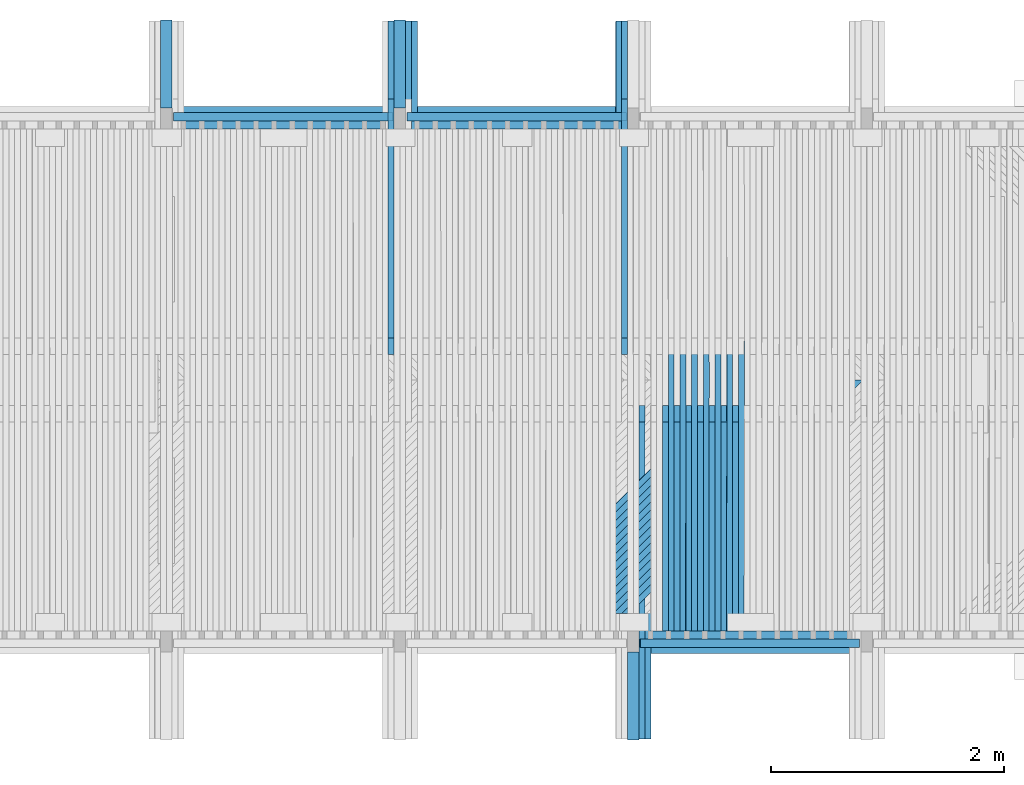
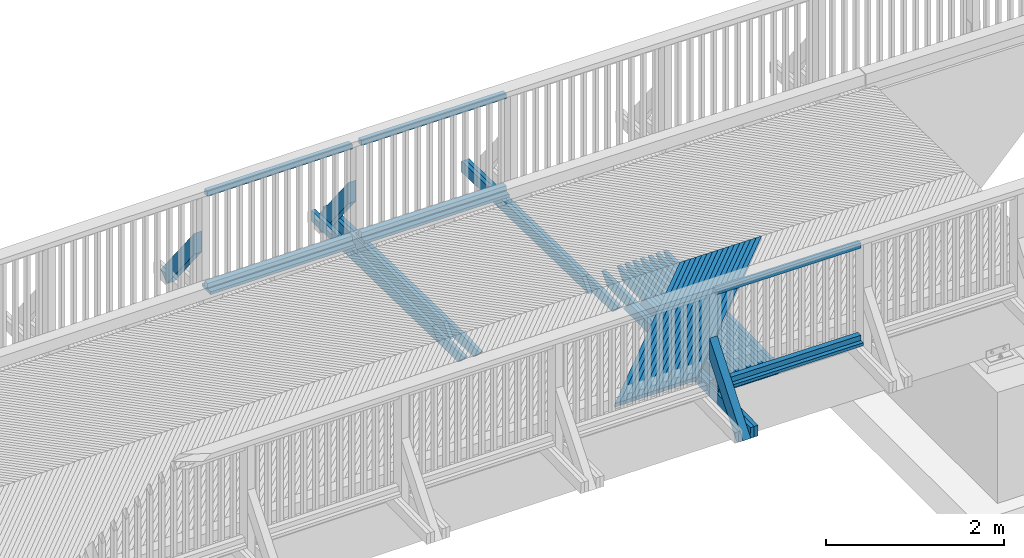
# One storey, part 39 of 53: 47 beams, 3 members.
"""IFC2X3 building model written with IfcOpenShell, lengths in millimetres."""

from ifc_helpers import new_model, si_unit, frame, origin_with_axes, place, context, subcontext, project, spatial, faceted_brep, material, type_object, element, save


model = new_model("IFC2X3")

# Units and contexts
model_context = context("Model", 3, precision=1e-05, world=origin_with_axes())
body_context = subcontext(model_context, "Body", "Model", "MODEL_VIEW")
ifc_project = project(units=[si_unit("LENGTHUNIT", "METRE", prefix="MILLI"), si_unit("AREAUNIT", "SQUARE_METRE"), si_unit("VOLUMEUNIT", "CUBIC_METRE"), si_unit("MASSUNIT", "GRAM", prefix="KILO"), si_unit("TIMEUNIT", "SECOND"), si_unit("PLANEANGLEUNIT", "RADIAN"), si_unit("SOLIDANGLEUNIT", "STERADIAN"), si_unit("THERMODYNAMICTEMPERATUREUNIT", "DEGREE_CELSIUS"), si_unit("LUMINOUSINTENSITYUNIT", "LUMEN")], contexts=[model_context])

# Site, building, storey
site_placement = place(None, origin_with_axes())
site = spatial("IfcSite", under=ifc_project, at=site_placement, Name="Undefined", CompositionType="ELEMENT")
building_placement = place(site_placement, origin_with_axes())
building = spatial("IfcBuilding", under=site, at=building_placement, Name="Undefined", CompositionType="ELEMENT")
storey_placement = place(building_placement, origin_with_axes())
storey = spatial("IfcBuildingStorey", under=building, at=storey_placement, Name="Undefined", CompositionType="ELEMENT", Elevation=0.0)

# Members
ifc_material = material(Name="TIMBER/Timber_Undefined")
member_type = type_object("IfcMemberType", Name="180*100", PredefinedType="NOTDEFINED")
for number, where, z_axis, x_axis in (
    (1, (10000.0064146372, 45378.7683991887, 2950.63480506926), (0.0, 0.783926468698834, 0.620853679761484), (-4.01699999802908e-06, -0.620853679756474, 0.78392646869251)),
    (2, (8000.00641464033, 45378.7683991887, 2953.94911855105), (0.0, 0.783926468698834, 0.620853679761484), (-4.01699999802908e-06, -0.620853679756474, 0.78392646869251)),
):
    element("IfcMember", number, at=place(storey_placement, frame(where, z_axis=z_axis, x_axis=x_axis)), inside=storey, type_object=member_type, material=ifc_material, Name="KAIDEPYLVÄS", ObjectType="180*100", context=body_context, shape_type="Brep", body=[
        faceted_brep([(0.0, 50.0, -89.9999999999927), (0.0, 50.0, 90.0), (1214.99440716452, 50.0, 90.0000000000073), (987.715792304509, 50.0, -89.9999999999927), (0.0, -49.9999999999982, 90.0000000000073), (1214.99480886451, -50.0, 90.0000000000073), (-3.63797880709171e-12, -49.9999999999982, -90.0), (987.716194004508, -49.9999999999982, -89.9999999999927)], [[[0, 1, 2, 3]], [[1, 4, 5, 2]], [[4, 6, 7, 5]], [[6, 0, 3, 7]], [[5, 7, 3, 2]], [[6, 4, 1, 0]]]),
    ])
member_placement = place(storey_placement, frame((12000.0064146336, 39351.2316008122, 2940.69175529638), z_axis=(0.0, -0.783926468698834, 0.620853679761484), x_axis=(-4.01699999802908e-06, 0.620853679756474, 0.783926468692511)))
element("IfcMember", 3, at=member_placement, inside=storey, type_object=member_type, material=ifc_material, Name="KAIDEPYLVÄS", ObjectType="180*100", context=body_context, shape_type="Brep", body=[
    faceted_brep([(0.0, 50.0, -89.9999999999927), (0.0, 50.0, 90.0), (1214.99480886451, 50.0000000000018, 90.0000000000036), (987.716194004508, 50.0, -89.9999999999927), (0.0, -49.9999999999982, 90.0000000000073), (1214.99440716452, -49.9999999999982, 90.0000000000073), (-3.63797880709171e-12, -49.9999999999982, -90.0), (987.715792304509, -49.9999999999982, -89.9999999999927)], [[[0, 1, 2, 3]], [[1, 4, 5, 2]], [[4, 6, 7, 5]], [[6, 0, 3, 7]], [[5, 7, 3, 2]], [[6, 4, 1, 0]]]),
])

# Beams
beam_type_1 = type_object("IfcBeamType", Name="70*70", PredefinedType="NOTDEFINED")
beam_1_placement = place(storey_placement, frame((10059.8168055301, 44619.9900689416, 3259.925078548), z_axis=(0.0, 1.0, 0.0), x_axis=(0.999986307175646, 0.0, -0.00523311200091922)))
element("IfcBeam", 4, at=beam_1_placement, inside=storey, type_object=beam_type_1, material=ifc_material, Name="BEAM", ObjectType="70*70", context=body_context, shape_type="Brep", body=[
    faceted_brep([(-3.63797880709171e-12, 35.0000000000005, -35.0), (-3.63797880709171e-12, 35.0000000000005, 35.0), (1880.02601672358, 34.9999999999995, 35.0), (1880.02601672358, 34.9999999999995, -35.0), (-3.63797880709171e-12, -34.9999999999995, 35.0), (1880.02601672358, -35.0000000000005, 35.0), (-3.63797880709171e-12, -34.9999999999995, -35.0), (1880.02601672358, -35.0000000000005, -35.0)], [[[0, 1, 2, 3]], [[1, 4, 5, 2]], [[4, 6, 7, 5]], [[6, 0, 3, 7]], [[5, 7, 3, 2]], [[6, 4, 1, 0]]]),
])
beam_2_placement = place(storey_placement, frame((8059.93901393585, 44619.9899853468, 3263.2738534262), z_axis=(0.0, 1.0, 0.0), x_axis=(0.999998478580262, 0.0, -0.00174437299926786)))
element("IfcBeam", 5, at=beam_2_placement, inside=storey, type_object=beam_type_1, material=ifc_material, Name="BEAM", ObjectType="70*70", context=body_context, shape_type="Brep", body=[
    faceted_brep([(-3.63797880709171e-12, 35.0000000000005, -35.0), (-3.63797880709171e-12, 35.0000000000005, 35.0), (1880.00289069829, 35.0, 35.0), (1880.00289069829, 35.0, -35.0), (-3.63797880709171e-12, -34.9999999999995, 35.0), (1880.00289069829, -35.0000000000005, 35.0), (-3.63797880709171e-12, -34.9999999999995, -35.0), (1880.00289069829, -35.0000000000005, -35.0)], [[[0, 1, 2, 3]], [[1, 4, 5, 2]], [[4, 6, 7, 5]], [[6, 0, 3, 7]], [[5, 7, 3, 2]], [[6, 4, 1, 0]]]),
])
beam_3_placement = place(storey_placement, frame((10059.8168055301, 44619.9900689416, 4524.925078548), z_axis=(0.0, 1.0, 0.0), x_axis=(0.999986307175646, 0.0, -0.00523311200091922)))
element("IfcBeam", 6, at=beam_3_placement, inside=storey, type_object=beam_type_1, material=ifc_material, Name="BEAM", ObjectType="70*70", context=body_context, shape_type="Brep", body=[
    faceted_brep([(-3.63797880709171e-12, 35.0000000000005, -35.0), (-3.63797880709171e-12, 35.0000000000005, 35.0), (1880.02601672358, 34.9999999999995, 35.0), (1880.02601672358, 34.9999999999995, -35.0), (-3.63797880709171e-12, -34.9999999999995, 35.0), (1880.02601672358, -35.0000000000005, 35.0), (-3.63797880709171e-12, -34.9999999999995, -35.0), (1880.02601672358, -35.0000000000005, -35.0)], [[[0, 1, 2, 3]], [[1, 4, 5, 2]], [[4, 6, 7, 5]], [[6, 0, 3, 7]], [[5, 7, 3, 2]], [[6, 4, 1, 0]]]),
])
beam_4_placement = place(storey_placement, frame((8059.93901393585, 44619.9899853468, 4528.27385342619), z_axis=(0.0, 1.0, 0.0), x_axis=(0.999998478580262, 0.0, -0.00174437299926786)))
element("IfcBeam", 7, at=beam_4_placement, inside=storey, type_object=beam_type_1, material=ifc_material, Name="BEAM", ObjectType="70*70", context=body_context, shape_type="Brep", body=[
    faceted_brep([(-3.63797880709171e-12, 35.0000000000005, -35.0), (-3.63797880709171e-12, 35.0000000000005, 35.0), (1880.00289069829, 35.0, 35.0), (1880.00289069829, 35.0, -35.0), (-3.63797880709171e-12, -34.9999999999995, 35.0), (1880.00289069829, -35.0000000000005, 35.0), (-3.63797880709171e-12, -34.9999999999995, -35.0), (1880.00289069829, -35.0000000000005, -35.0)], [[[0, 1, 2, 3]], [[1, 4, 5, 2]], [[4, 6, 7, 5]], [[6, 0, 3, 7]], [[5, 7, 3, 2]], [[6, 4, 1, 0]]]),
])
for number, where, z_axis, x_axis, name in (
    (8, (12059.6944082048, 40110.0100009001, 3249.94799357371), (0.0, -1.0, 0.0), (0.999961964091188, 0.0, -0.00872183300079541), "BEAM"),
    (9, (12059.6944082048, 40110.0100009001, 4514.94799357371), (0.0, -1.0, 0.0), (0.999961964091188, 0.0, -0.00872183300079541), "BEAM"),
):
    element("IfcBeam", number, at=place(storey_placement, frame(where, z_axis=z_axis, x_axis=x_axis)), inside=storey, type_object=beam_type_1, material=ifc_material, Name=name, ObjectType="70*70", context=body_context, shape_type="Brep", body=[
        faceted_brep([(-3.63797880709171e-12, 35.0000000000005, -35.0), (-3.63797880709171e-12, 35.0000000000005, 35.0), (1880.07227097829, 34.9999999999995, 35.0), (1880.07227097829, 34.9999999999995, -35.0), (-3.63797880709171e-12, -34.9999999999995, 35.0), (1880.07227097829, -35.0000000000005, 35.0), (-3.63797880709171e-12, -34.9999999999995, -35.0), (1880.07227097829, -35.0000000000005, -35.0)], [[[0, 1, 2, 3]], [[1, 4, 5, 2]], [[4, 6, 7, 5]], [[6, 0, 3, 7]], [[5, 7, 3, 2]], [[6, 4, 1, 0]]]),
    ])
beam_type_2 = type_object("IfcBeamType", Name="195*40", PredefinedType="NOTDEFINED")
for number, where, z_axis, x_axis, name in (
    (10, (10058.6727720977, 44612.4900689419, 3204.93956033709), (0.0, 1.0, 0.0), (0.999986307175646, 0.0, -0.00523311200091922), "BEAM"),
    (11, (8058.98681846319, 44612.4899853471, 3208.28467859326), (0.0, 1.0, 0.0), (0.999998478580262, 0.0, -0.00174437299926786), "BEAM"),
    (12, (12058.3585482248, 40117.5100008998, 3194.96680130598), (0.0, -1.0, 0.0), (0.999961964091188, 0.0, -0.00872183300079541), "BEAM"),
):
    element("IfcBeam", number, at=place(storey_placement, frame(where, z_axis=z_axis, x_axis=x_axis)), inside=storey, type_object=beam_type_2, material=ifc_material, Name=name, ObjectType="195*40", context=body_context, shape_type="Brep", body=[
        faceted_brep([(0.0, 20.0, -97.5), (0.0, 20.0, 97.5), (1880.22135781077, 19.9999999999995, 97.5), (1880.22135781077, 19.9999999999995, -97.5), (3.63797880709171e-12, -20.0, 97.5), (1880.22135781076, -20.0000000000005, 97.5), (3.63797880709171e-12, -20.0, -97.5), (1880.22135781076, -20.0000000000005, -97.5)], [[[0, 1, 2, 3]], [[1, 4, 5, 2]], [[4, 6, 7, 5]], [[6, 0, 3, 7]], [[5, 7, 3, 2]], [[6, 4, 1, 0]]]),
    ])
beam_type_3 = type_object("IfcBeamType", Name="50*50", PredefinedType="NOTDEFINED")
for number, where, z_axis, x_axis, name in (
    (13, (13935.0975862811, 42364.5001003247, 3206.86972998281), (0.706953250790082, -0.706981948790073, -0.019839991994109), (-0.707214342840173, -0.706948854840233, -0.00843741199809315), "BEAM"),
    (14, (13864.3767480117, 42364.5001003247, 3207.56271699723), (0.706955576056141, -0.706981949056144, -0.019756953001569), (-0.707213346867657, -0.706948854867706, -0.00852048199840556), "BEAM"),
    (15, (13793.6558288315, 42364.5001003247, 3208.24739709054), (0.706957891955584, -0.706981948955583, -0.019673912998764), (-0.707212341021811, -0.706948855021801, -0.00860355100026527), "BEAM"),
    (16, (13722.9348297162, 42364.5001003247, 3208.92377025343), (0.706960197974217, -0.706981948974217, -0.0195908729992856), (-0.7072113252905, -0.706948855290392, -0.00868662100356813), "BEAM"),
    (17, (13652.2137516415, 42364.5001003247, 3209.5918364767), (0.70696249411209, -0.706981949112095, -0.0195078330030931), (-0.707210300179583, -0.706948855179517, -0.0087696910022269), "BEAM"),
    (18, (13581.4925955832, 42364.5001003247, 3210.25159575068), (0.706964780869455, -0.706981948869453, -0.0194247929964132), (-0.707209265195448, -0.706948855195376, -0.00885276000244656), "BEAM"),
    (19, (13510.771362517, 42364.5001003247, 3210.90304806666), (0.706967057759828, -0.706981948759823, -0.019341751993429), (-0.70720822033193, -0.706948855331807, -0.00893582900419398), "BEAM"),
    (20, (13440.0500534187, 42364.5001003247, 3211.54619341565), (0.706969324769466, -0.706981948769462, -0.0192587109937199), (-0.707207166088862, -0.706948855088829, -0.00901889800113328), "BEAM"),
    (21, (13369.3286692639, 42364.5001003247, 3212.18103178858), (0.706971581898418, -0.706981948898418, -0.0191756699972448), (-0.707206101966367, -0.706948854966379, -0.0091019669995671), "BEAM"),
    (22, (13298.6072110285, 42364.5001003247, 3212.80756317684), (0.706973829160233, -0.706981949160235, -0.0190926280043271), (-0.707205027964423, -0.706948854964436, -0.00918503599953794), "BEAM"),
    (23, (13227.8856796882, 42364.5001003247, 3213.42578757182), (0.706976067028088, -0.70698194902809, -0.0190095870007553), (-0.707203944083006, -0.706948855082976, -0.00926810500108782), "BEAM"),
    (24, (13157.1640762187, 42364.5001003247, 3214.03570496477), (0.70697829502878, -0.70698194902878, -0.0189265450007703), (-0.707202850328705, -0.706948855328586, -0.00935117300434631), "BEAM"),
    (25, (13086.4424015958, 42364.5001003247, 3214.63731534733), (0.706980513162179, -0.70698194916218, -0.0188435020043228), (-0.707201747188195, -0.706948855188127, -0.00943424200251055), "BEAM"),
    (26, (13015.7206567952, 42364.5001003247, 3215.23061871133), (0.706982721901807, -0.706981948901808, -0.0187604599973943), (-0.707200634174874, -0.706948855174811, -0.00951731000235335), "BEAM"),
    (27, (12944.9988427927, 42364.5001003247, 3215.81561504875), (0.706984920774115, -0.706981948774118, -0.0186774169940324), (-0.707199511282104, -0.706948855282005, -0.0096003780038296), "BEAM"),
):
    element("IfcBeam", number, at=place(storey_placement, frame(where, z_axis=z_axis, x_axis=x_axis)), inside=storey, type_object=beam_type_3, material=ifc_material, Name=name, ObjectType="50*50", context=body_context, shape_type="Brep", body=[
        faceted_brep([(24.8942457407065, 25.0, -25.0), (-25.0086637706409, 24.9999999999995, 24.9999999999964), (2804.34067830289, 25.0, 25.0000000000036), (2854.34301907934, 24.9999999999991, -25.0000000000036), (-26.4222658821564, -25.0000000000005, 25.0000000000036), (2802.92643296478, -25.0, 25.0), (23.4806436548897, -25.0, -25.0), (2852.92877373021, -25.0000000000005, -25.0000000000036)], [[[0, 1, 2, 3]], [[1, 4, 5, 2]], [[4, 6, 7, 5]], [[6, 0, 3, 7]], [[5, 7, 3, 2]], [[6, 4, 1, 0]]]),
    ])
beam_type_4 = type_object("IfcBeamType", Name="150*50", PredefinedType="NOTDEFINED")
beam_5_placement = place(storey_placement, frame((10125.0217457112, 45437.2106524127, 3070.9202994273), z_axis=(0.00353218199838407, 0.0199960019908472, 0.999793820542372), x_axis=(6.92069999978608e-05, -0.999800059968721, 0.0199958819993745)))
element("IfcBeam", 28, at=beam_5_placement, inside=storey, type_object=beam_type_4, material=ifc_material, Name="BEAM", ObjectType="150*50", context=body_context, shape_type="Brep", body=[
    faceted_brep([(1.28420651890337e-08, -24.9999999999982, -74.9999999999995), (1.28420651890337e-08, 25.0000000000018, -75.0), (3298.90492234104, 25.0, -75.0), (3298.90497884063, -24.9999999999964, -75.0), (-1.28347892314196e-08, -24.9999999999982, 75.0), (-1.28347892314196e-08, 25.0, 75.0), (3074.32497546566, 25.0000000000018, 75.0), (3434.49245887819, 25.0, 60.5875365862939), (3434.49251531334, -24.9999999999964, 60.587536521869), (3074.32503029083, -25.0, 75.0000000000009)], [[[0, 1, 2, 3]], [[0, 4, 5, 1]], [[2, 1, 5, 6, 7]], [[3, 2, 7, 8]], [[4, 0, 3, 8, 9]], [[5, 4, 9, 6]], [[8, 7, 6, 9]]]),
])
beam_6_placement = place(storey_placement, frame((10075.0042720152, 45437.2106678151, 3071.09700537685), z_axis=(0.00336606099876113, 0.0199960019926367, 0.999794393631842), x_axis=(6.61229999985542e-05, -0.999800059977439, 0.0199958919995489)))
element("IfcBeam", 29, at=beam_6_placement, inside=storey, type_object=beam_type_4, material=ifc_material, Name="BEAM", ObjectType="150*50", context=body_context, shape_type="Brep", body=[
    faceted_brep([(1.28420651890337e-08, -24.9999999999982, -74.9999999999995), (-1.28347892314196e-08, -24.9999999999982, 75.0), (-1.28347892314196e-08, 25.0, 75.0), (1.28420651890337e-08, 25.0000000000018, -75.0), (2713.86933800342, 25.0000000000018, 75.0), (2852.32643692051, 24.9999999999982, -75.0000000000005), (2852.32648139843, -25.0000000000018, -75.0000000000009), (2713.86938248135, -25.0000000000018, 74.9999999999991)], [[[0, 1, 2, 3]], [[3, 2, 4, 5]], [[0, 3, 5, 6]], [[1, 0, 6, 7]], [[2, 1, 7, 4]], [[6, 5, 4, 7]]]),
])
beam_7_placement = place(storey_placement, frame((11874.7735217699, 45437.2106832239, 3062.2002056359), z_axis=(0.00635604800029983, 0.0199960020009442, 0.999779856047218), x_axis=(0.000128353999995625, -0.999800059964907, 0.0199955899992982)))
element("IfcBeam", 30, at=beam_7_placement, inside=storey, type_object=beam_type_4, material=ifc_material, Name="BEAM", ObjectType="150*50", context=body_context, shape_type="Brep", body=[
    faceted_brep([(1.28420651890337e-08, -24.9999999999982, -74.9999999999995), (-1.28347892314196e-08, -24.9999999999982, 75.0), (-1.28347892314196e-08, 25.0, 75.0), (1.28420651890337e-08, 25.0000000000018, -75.0), (2713.86939704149, 24.9999999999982, 75.0000000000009), (2852.32649585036, 25.0, -74.9999999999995), (2852.32641872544, -25.0, -74.9999999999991), (2713.86931991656, -25.0, 75.0)], [[[0, 1, 2, 3]], [[3, 2, 4, 5]], [[0, 3, 5, 6]], [[1, 0, 6, 7]], [[2, 1, 7, 4]], [[6, 5, 4, 7]]]),
])
for number, where, z_axis, x_axis, name in (
    (31, (11924.7947374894, 45437.2106678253, 3061.87388867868), (0.00652216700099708, 0.0199960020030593, 0.999778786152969), (0.000130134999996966, -0.999800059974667, 0.0199955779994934), "BEAM"),
    (32, (9924.98506254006, 45437.2106678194, 3071.59377355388), (0.00319994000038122, 0.0199960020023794, 0.999794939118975), (6.36899999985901e-05, -0.99980005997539, 0.0199958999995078), "BEAM"),
):
    element("IfcBeam", number, at=place(storey_placement, frame(where, z_axis=z_axis, x_axis=x_axis)), inside=storey, type_object=beam_type_4, material=ifc_material, Name=name, ObjectType="150*50", context=body_context, shape_type="Brep", body=[
        faceted_brep([(1.28420651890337e-08, -24.9999999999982, -74.9999999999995), (1.28420651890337e-08, 25.0000000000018, -75.0), (3298.90492234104, 25.0, -75.0), (3298.90497884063, -24.9999999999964, -75.0), (-1.28347892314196e-08, -24.9999999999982, 75.0), (-1.28347892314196e-08, 25.0, 75.0), (3074.32503673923, 25.0000000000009, 75.0), (3434.49245887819, 25.0, 60.5875365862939), (3434.49251531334, -24.9999999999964, 60.587536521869), (3074.32503029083, -25.0, 75.0000000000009)], [[[0, 1, 2, 3]], [[0, 4, 5, 1]], [[2, 1, 5, 6, 7]], [[3, 2, 7, 8]], [[4, 0, 3, 8, 9]], [[5, 4, 9, 6]], [[8, 7, 6, 9]]]),
    ])
beam_8_placement = place(storey_placement, frame((12124.8280789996, 39292.7893476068, 3060.53571113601), z_axis=(0.00685440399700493, -0.0199960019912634, 0.999776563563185), x_axis=(0.000135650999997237, 0.999800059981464, 0.0199955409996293)))
element("IfcBeam", 33, at=beam_8_placement, inside=storey, type_object=beam_type_4, material=ifc_material, Name="BEAM", ObjectType="150*50", context=body_context, shape_type="Brep", body=[
    faceted_brep([(1.28420651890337e-08, -24.9999999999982, -74.9999999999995), (-1.28347892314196e-08, -24.9999999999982, 75.0), (-1.28347892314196e-08, 25.0, 75.0), (1.28420651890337e-08, 25.0000000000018, -75.0), (3298.90497884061, 24.9999999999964, -74.9999999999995), (3298.90492234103, -25.0, -74.9999999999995), (3434.49245887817, -25.0, 60.5875365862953), (3074.32503029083, -25.0, 75.0000000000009), (3074.32503673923, 25.0000000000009, 75.0), (3434.49251531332, 24.9999999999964, 60.5875365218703)], [[[0, 1, 2, 3]], [[0, 3, 4, 5]], [[1, 0, 5, 6, 7]], [[2, 1, 7, 8]], [[4, 3, 2, 8, 9]], [[5, 4, 9, 6]], [[8, 7, 6, 9]]]),
])
beam_9_placement = place(storey_placement, frame((12074.8114686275, 39292.78933218, 3060.87862046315), z_axis=(0.00668828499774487, -0.0199960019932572, 0.999777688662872), x_axis=(0.000132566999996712, 0.999800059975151, 0.019995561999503)))
element("IfcBeam", 34, at=beam_9_placement, inside=storey, type_object=beam_type_4, material=ifc_material, Name="BEAM", ObjectType="150*50", context=body_context, shape_type="Brep", body=[
    faceted_brep([(1.28420651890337e-08, -24.9999999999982, -74.9999999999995), (-1.28347892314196e-08, -24.9999999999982, 75.0), (-1.28347892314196e-08, 25.0, 75.0), (1.28420651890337e-08, 25.0000000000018, -75.0), (2713.86938248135, -25.0000000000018, 74.9999999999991), (2713.86933800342, 25.0000000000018, 75.0), (2852.32643692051, 24.9999999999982, -75.0000000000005), (2852.32648139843, -25.0000000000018, -75.0000000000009)], [[[0, 1, 2, 3]], [[2, 1, 4, 5]], [[3, 2, 5, 6]], [[0, 3, 6, 7]], [[1, 0, 7, 4]], [[7, 6, 5, 4]]]),
])
beam_10_placement = place(storey_placement, frame((12874.8994002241, 40216.5046076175, 3073.40458690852), z_axis=(0.00801827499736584, -0.0199960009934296, 0.999767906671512), x_axis=(0.0001603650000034, 0.999800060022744, 0.0199953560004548)))
element("IfcBeam", 35, at=beam_10_placement, inside=storey, type_object=beam_type_4, material=ifc_material, Name="BEAM", ObjectType="150*50", context=body_context, shape_type="Brep", body=[
    faceted_brep([(1.28420651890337e-08, -24.9999999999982, -74.9999999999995), (-1.28347892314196e-08, -24.9999999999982, 75.0), (-1.28347892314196e-08, 25.0, 75.0), (1.28420651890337e-08, 25.0000000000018, -75.0), (1789.96936433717, -25.0000000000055, 74.9999999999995), (1789.96936408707, 24.9999999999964, 75.0000000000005), (1928.42646328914, 24.9999999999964, -74.9999999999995), (1928.42646353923, -25.0000000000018, -75.0)], [[[0, 1, 2, 3]], [[2, 1, 4, 5]], [[3, 2, 5, 6]], [[0, 3, 6, 7]], [[1, 0, 7, 4]], [[6, 5, 4, 7]]]),
])
beam_11_placement = place(storey_placement, frame((12924.9177572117, 40216.5046076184, 3072.99512326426), z_axis=(0.00818439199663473, -0.0199960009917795, 0.999766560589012), x_axis=(0.000163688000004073, 0.999800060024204, 0.019995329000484)))
element("IfcBeam", 36, at=beam_11_placement, inside=storey, type_object=beam_type_4, material=ifc_material, Name="BEAM", ObjectType="150*50", context=body_context, shape_type="Brep", body=[
    faceted_brep([(1.28420651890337e-08, -24.9999999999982, -74.9999999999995), (-1.28347892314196e-08, -24.9999999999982, 75.0), (-1.28347892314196e-08, 25.0, 75.0), (1.28420651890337e-08, 25.0000000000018, -75.0), (2375.00494422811, 25.0000000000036, -75.0), (2375.0049444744, -24.9999999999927, -74.9999999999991), (2510.5924871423, -24.9999999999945, 60.5875430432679), (2150.42514405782, -24.9999999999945, 75.0), (2150.42515052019, 25.0000000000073, 75.0), (2510.59248715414, 25.0000000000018, 60.5875433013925)], [[[0, 1, 2, 3]], [[0, 3, 4, 5]], [[1, 0, 5, 6, 7]], [[2, 1, 7, 8]], [[4, 3, 2, 8, 9]], [[5, 4, 9, 6]], [[6, 9, 8, 7]]]),
])
beam_12_placement = place(storey_placement, frame((12774.8825803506, 40216.5046076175, 3074.20626833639), z_axis=(0.00785215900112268, -0.0199960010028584, 0.99976922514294), x_axis=(0.00015704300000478, 0.999800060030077, 0.0199953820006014)))
element("IfcBeam", 37, at=beam_12_placement, inside=storey, type_object=beam_type_4, material=ifc_material, Name="BEAM", ObjectType="150*50", context=body_context, shape_type="Brep", body=[
    faceted_brep([(1.28420651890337e-08, -24.9999999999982, -74.9999999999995), (-1.28347892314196e-08, -24.9999999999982, 75.0), (-1.28347892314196e-08, 25.0, 75.0), (1.28420651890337e-08, 25.0000000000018, -75.0), (1789.96936433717, -25.0000000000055, 74.9999999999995), (1789.96936408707, 24.9999999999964, 75.0000000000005), (1928.42646328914, 24.9999999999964, -74.9999999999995), (1928.42646353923, -25.0000000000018, -75.0)], [[[0, 1, 2, 3]], [[2, 1, 4, 5]], [[3, 2, 5, 6]], [[0, 3, 6, 7]], [[1, 0, 7, 4]], [[6, 5, 4, 7]]]),
])
beam_13_placement = place(storey_placement, frame((12824.9010046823, 40216.5046076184, 3073.80511551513), z_axis=(0.00801827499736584, -0.0199960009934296, 0.999767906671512), x_axis=(0.0001603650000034, 0.999800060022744, 0.0199953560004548)))
element("IfcBeam", 38, at=beam_13_placement, inside=storey, type_object=beam_type_4, material=ifc_material, Name="BEAM", ObjectType="150*50", context=body_context, shape_type="Brep", body=[
    faceted_brep([(1.28420651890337e-08, -24.9999999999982, -74.9999999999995), (-1.28347892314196e-08, -24.9999999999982, 75.0), (-1.28347892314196e-08, 25.0, 75.0), (1.28420651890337e-08, 25.0000000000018, -75.0), (2375.00494422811, 25.0000000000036, -75.0), (2375.0049444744, -24.9999999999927, -74.9999999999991), (2510.5924871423, -24.9999999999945, 60.5875430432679), (2150.42514405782, -24.9999999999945, 75.0), (2150.42515052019, 25.0000000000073, 75.0), (2510.59248715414, 25.0000000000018, 60.5875433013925)], [[[0, 1, 2, 3]], [[0, 3, 4, 5]], [[1, 0, 5, 6, 7]], [[2, 1, 7, 8]], [[4, 3, 2, 8, 9]], [[5, 4, 9, 6]], [[6, 9, 8, 7]]]),
])
beam_14_placement = place(storey_placement, frame((12674.8656286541, 40216.5046076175, 3074.99133142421), z_axis=(0.00768604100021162, -0.0199960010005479, 0.999770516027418), x_axis=(0.000153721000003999, 0.999800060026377, 0.0199954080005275)))
element("IfcBeam", 39, at=beam_14_placement, inside=storey, type_object=beam_type_4, material=ifc_material, Name="BEAM", ObjectType="150*50", context=body_context, shape_type="Brep", body=[
    faceted_brep([(1.28420651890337e-08, -24.9999999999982, -74.9999999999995), (-1.28347892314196e-08, -24.9999999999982, 75.0), (-1.28347892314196e-08, 25.0, 75.0), (1.28420651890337e-08, 25.0000000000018, -75.0), (1789.96936433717, -25.0000000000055, 74.9999999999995), (1789.96936408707, 24.9999999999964, 75.0000000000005), (1928.42646328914, 24.9999999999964, -74.9999999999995), (1928.42646353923, -25.0000000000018, -75.0)], [[[0, 1, 2, 3]], [[2, 1, 4, 5]], [[3, 2, 5, 6]], [[0, 3, 6, 7]], [[1, 0, 7, 4]], [[6, 5, 4, 7]]]),
])
beam_15_placement = place(storey_placement, frame((12724.884118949, 40216.5046076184, 3074.5984894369), z_axis=(0.00785215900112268, -0.0199960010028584, 0.99976922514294), x_axis=(0.00015704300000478, 0.999800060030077, 0.0199953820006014)))
element("IfcBeam", 40, at=beam_15_placement, inside=storey, type_object=beam_type_4, material=ifc_material, Name="BEAM", ObjectType="150*50", context=body_context, shape_type="Brep", body=[
    faceted_brep([(1.28420651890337e-08, -24.9999999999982, -74.9999999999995), (-1.28347892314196e-08, -24.9999999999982, 75.0), (-1.28347892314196e-08, 25.0, 75.0), (1.28420651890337e-08, 25.0000000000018, -75.0), (2375.00494422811, 25.0000000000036, -75.0), (2375.0049444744, -24.9999999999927, -74.9999999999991), (2510.5924871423, -24.9999999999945, 60.5875430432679), (2150.42514405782, -24.9999999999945, 75.0), (2150.42515052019, 25.0000000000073, 75.0), (2510.59248715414, 25.0000000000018, 60.5875433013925)], [[[0, 1, 2, 3]], [[0, 3, 4, 5]], [[1, 0, 5, 6, 7]], [[2, 1, 7, 8]], [[4, 3, 2, 8, 9]], [[5, 4, 9, 6]], [[6, 9, 8, 7]]]),
])
beam_16_placement = place(storey_placement, frame((12574.8485478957, 40216.5046076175, 3075.75977614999), z_axis=(0.00751992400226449, -0.0199960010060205, 0.99977177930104), x_axis=(0.000150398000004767, 0.999800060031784, 0.0199954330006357)))
element("IfcBeam", 41, at=beam_16_placement, inside=storey, type_object=beam_type_4, material=ifc_material, Name="BEAM", ObjectType="150*50", context=body_context, shape_type="Brep", body=[
    faceted_brep([(1.28420651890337e-08, -24.9999999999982, -74.9999999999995), (-1.28347892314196e-08, -24.9999999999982, 75.0), (-1.28347892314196e-08, 25.0, 75.0), (1.28420651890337e-08, 25.0000000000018, -75.0), (1789.96936433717, -25.0000000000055, 74.9999999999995), (1789.96936408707, 24.9999999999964, 75.0000000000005), (1928.42646328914, 24.9999999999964, -74.9999999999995), (1928.42646353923, -25.0000000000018, -75.0)], [[[0, 1, 2, 3]], [[2, 1, 4, 5]], [[3, 2, 5, 6]], [[0, 3, 6, 7]], [[1, 0, 7, 4]], [[6, 5, 4, 7]]]),
])
beam_17_placement = place(storey_placement, frame((12624.8671027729, 40216.5046076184, 3075.37524500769), z_axis=(0.00768604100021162, -0.0199960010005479, 0.999770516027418), x_axis=(0.000153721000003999, 0.999800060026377, 0.0199954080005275)))
element("IfcBeam", 42, at=beam_17_placement, inside=storey, type_object=beam_type_4, material=ifc_material, Name="BEAM", ObjectType="150*50", context=body_context, shape_type="Brep", body=[
    faceted_brep([(1.28420651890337e-08, -24.9999999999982, -74.9999999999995), (-1.28347892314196e-08, -24.9999999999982, 75.0), (-1.28347892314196e-08, 25.0, 75.0), (1.28420651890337e-08, 25.0000000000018, -75.0), (2375.00494422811, 25.0000000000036, -75.0), (2375.0049444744, -24.9999999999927, -74.9999999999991), (2510.5924871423, -24.9999999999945, 60.5875430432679), (2150.42514405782, -24.9999999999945, 75.0), (2150.42515052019, 25.0000000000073, 75.0), (2510.59248715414, 25.0000000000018, 60.5875433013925)], [[[0, 1, 2, 3]], [[0, 3, 4, 5]], [[1, 0, 5, 6, 7]], [[2, 1, 7, 8]], [[4, 3, 2, 8, 9]], [[5, 4, 9, 6]], [[6, 9, 8, 7]]]),
])
beam_18_placement = place(storey_placement, frame((12474.8313408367, 40216.5046076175, 3076.51160249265), z_axis=(0.00735380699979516, -0.0199960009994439, 0.999773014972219), x_axis=(0.000147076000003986, 0.999800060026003, 0.0199954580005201)))
element("IfcBeam", 43, at=beam_18_placement, inside=storey, type_object=beam_type_4, material=ifc_material, Name="BEAM", ObjectType="150*50", context=body_context, shape_type="Brep", body=[
    faceted_brep([(1.28420651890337e-08, -24.9999999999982, -74.9999999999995), (-1.28347892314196e-08, -24.9999999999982, 75.0), (-1.28347892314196e-08, 25.0, 75.0), (1.28420651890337e-08, 25.0000000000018, -75.0), (1789.96936433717, -25.0000000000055, 74.9999999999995), (1789.96936408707, 24.9999999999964, 75.0000000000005), (1928.42646328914, 24.9999999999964, -74.9999999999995), (1928.42646353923, -25.0000000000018, -75.0)], [[[0, 1, 2, 3]], [[2, 1, 4, 5]], [[3, 2, 5, 6]], [[0, 3, 6, 7]], [[1, 0, 7, 4]], [[6, 5, 4, 7]]]),
])
beam_19_placement = place(storey_placement, frame((12524.8499589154, 40216.5046076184, 3076.13538220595), z_axis=(0.00751992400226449, -0.0199960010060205, 0.99977177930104), x_axis=(0.000150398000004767, 0.999800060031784, 0.0199954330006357)))
element("IfcBeam", 44, at=beam_19_placement, inside=storey, type_object=beam_type_4, material=ifc_material, Name="BEAM", ObjectType="150*50", context=body_context, shape_type="Brep", body=[
    faceted_brep([(1.28420651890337e-08, -24.9999999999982, -74.9999999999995), (-1.28347892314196e-08, -24.9999999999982, 75.0), (-1.28347892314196e-08, 25.0, 75.0), (1.28420651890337e-08, 25.0000000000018, -75.0), (2375.00494422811, 25.0000000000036, -75.0), (2375.0049444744, -24.9999999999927, -74.9999999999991), (2510.5924871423, -24.9999999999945, 60.5875430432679), (2150.42514405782, -24.9999999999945, 75.0), (2150.42515052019, 25.0000000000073, 75.0), (2510.59248715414, 25.0000000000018, 60.5875433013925)], [[[0, 1, 2, 3]], [[0, 3, 4, 5]], [[1, 0, 5, 6, 7]], [[2, 1, 7, 8]], [[4, 3, 2, 8, 9]], [[5, 4, 9, 6]], [[6, 9, 8, 7]]]),
])
beam_20_placement = place(storey_placement, frame((12374.8140102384, 40216.5046076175, 3077.24681043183), z_axis=(0.00718768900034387, -0.0199960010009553, 0.999774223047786), x_axis=(0.000143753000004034, 0.999800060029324, 0.0199954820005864)))
element("IfcBeam", 45, at=beam_20_placement, inside=storey, type_object=beam_type_4, material=ifc_material, Name="BEAM", ObjectType="150*50", context=body_context, shape_type="Brep", body=[
    faceted_brep([(1.28420651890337e-08, -24.9999999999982, -74.9999999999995), (-1.28347892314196e-08, -24.9999999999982, 75.0), (-1.28347892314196e-08, 25.0, 75.0), (1.28420651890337e-08, 25.0000000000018, -75.0), (1789.96936433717, -25.0000000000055, 74.9999999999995), (1789.96936408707, 24.9999999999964, 75.0000000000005), (1928.42646328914, 24.9999999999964, -74.9999999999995), (1928.42646353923, -25.0000000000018, -75.0)], [[[0, 1, 2, 3]], [[2, 1, 4, 5]], [[3, 2, 5, 6]], [[0, 3, 6, 7]], [[1, 0, 7, 4]], [[6, 5, 4, 7]]]),
])
beam_21_placement = place(storey_placement, frame((12424.8326901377, 40216.5046076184, 3076.87890101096), z_axis=(0.00735380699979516, -0.0199960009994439, 0.999773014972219), x_axis=(0.000147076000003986, 0.999800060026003, 0.0199954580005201)))
element("IfcBeam", 46, at=beam_21_placement, inside=storey, type_object=beam_type_4, material=ifc_material, Name="BEAM", ObjectType="150*50", context=body_context, shape_type="Brep", body=[
    faceted_brep([(1.28420651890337e-08, -24.9999999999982, -74.9999999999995), (-1.28347892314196e-08, -24.9999999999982, 75.0), (-1.28347892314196e-08, 25.0, 75.0), (1.28420651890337e-08, 25.0000000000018, -75.0), (2375.00494422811, 25.0000000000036, -75.0), (2375.0049444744, -24.9999999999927, -74.9999999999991), (2510.5924871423, -24.9999999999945, 60.5875430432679), (2150.42514405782, -24.9999999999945, 75.0), (2150.42515052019, 25.0000000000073, 75.0), (2510.59248715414, 25.0000000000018, 60.5875433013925)], [[[0, 1, 2, 3]], [[0, 3, 4, 5]], [[1, 0, 5, 6, 7]], [[2, 1, 7, 8]], [[4, 3, 2, 8, 9]], [[5, 4, 9, 6]], [[6, 9, 8, 7]]]),
])
beam_22_placement = place(storey_placement, frame((12274.796558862, 40216.5046076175, 3077.96539994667), z_axis=(0.00702157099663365, -0.0199960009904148, 0.999775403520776), x_axis=(0.000140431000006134, 0.999800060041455, 0.019995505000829)))
element("IfcBeam", 47, at=beam_22_placement, inside=storey, type_object=beam_type_4, material=ifc_material, Name="BEAM", ObjectType="150*50", context=body_context, shape_type="Brep", body=[
    faceted_brep([(1.28420651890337e-08, -24.9999999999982, -74.9999999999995), (-1.28347892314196e-08, -24.9999999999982, 75.0), (-1.28347892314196e-08, 25.0, 75.0), (1.28420651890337e-08, 25.0000000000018, -75.0), (1789.96936433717, -25.0000000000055, 74.9999999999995), (1789.96936408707, 24.9999999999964, 75.0000000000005), (1928.42646328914, 24.9999999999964, -74.9999999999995), (1928.42646353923, -25.0000000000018, -75.0)], [[[0, 1, 2, 3]], [[2, 1, 4, 5]], [[3, 2, 5, 6]], [[0, 3, 6, 7]], [[1, 0, 7, 4]], [[6, 5, 4, 7]]]),
])
beam_23_placement = place(storey_placement, frame((12324.8152992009, 40216.5046076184, 3077.60580140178), z_axis=(0.00718768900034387, -0.0199960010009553, 0.999774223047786), x_axis=(0.000143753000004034, 0.999800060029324, 0.0199954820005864)))
element("IfcBeam", 48, at=beam_23_placement, inside=storey, type_object=beam_type_4, material=ifc_material, Name="BEAM", ObjectType="150*50", context=body_context, shape_type="Brep", body=[
    faceted_brep([(1.28420651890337e-08, -24.9999999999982, -74.9999999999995), (-1.28347892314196e-08, -24.9999999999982, 75.0), (-1.28347892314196e-08, 25.0, 75.0), (1.28420651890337e-08, 25.0000000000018, -75.0), (2375.00494422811, 25.0000000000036, -75.0), (2375.0049444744, -24.9999999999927, -74.9999999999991), (2510.5924871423, -24.9999999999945, 60.5875430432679), (2150.42514405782, -24.9999999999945, 75.0), (2150.42515052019, 25.0000000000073, 75.0), (2510.59248715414, 25.0000000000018, 60.5875433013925)], [[[0, 1, 2, 3]], [[0, 3, 4, 5]], [[1, 0, 5, 6, 7]], [[2, 1, 7, 8]], [[4, 3, 2, 8, 9]], [[5, 4, 9, 6]], [[6, 9, 8, 7]]]),
])
for number, where, z_axis, x_axis, name in (
    (49, (11924.879680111, 44771.443807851, 3075.18895562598), (0.00652216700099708, 0.0199960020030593, 0.999778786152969), (0.000130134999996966, -0.999800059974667, 0.0199955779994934), "BEAM"),
    (50, (9925.02575940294, 44771.443807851, 3084.90904920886), (0.00319994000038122, 0.0199960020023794, 0.999794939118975), (6.36899999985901e-05, -0.99980005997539, 0.0199958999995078), "BEAM"),
):
    element("IfcBeam", number, at=place(storey_placement, frame(where, z_axis=z_axis, x_axis=x_axis)), inside=storey, type_object=beam_type_4, material=ifc_material, Name=name, ObjectType="150*50", context=body_context, shape_type="Brep", body=[
        faceted_brep([(1.28420651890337e-08, -24.9999999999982, -74.9999999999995), (-1.28347892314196e-08, -24.9999999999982, 75.0), (-1.28347892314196e-08, 25.0, 75.0), (1.28420651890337e-08, 25.0000000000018, -75.0), (2047.96936762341, 24.9999999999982, 75.0000000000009), (2186.42646645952, 24.9999999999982, -74.9999999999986), (2186.42645112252, -25.0000000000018, -74.9999999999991), (2047.96935228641, -25.0000000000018, 75.0000000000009)], [[[0, 1, 2, 3]], [[3, 2, 4, 5]], [[0, 3, 5, 6]], [[1, 0, 6, 7]], [[2, 1, 7, 4]], [[6, 5, 4, 7]]]),
    ])

save(model, "model.ifc")
